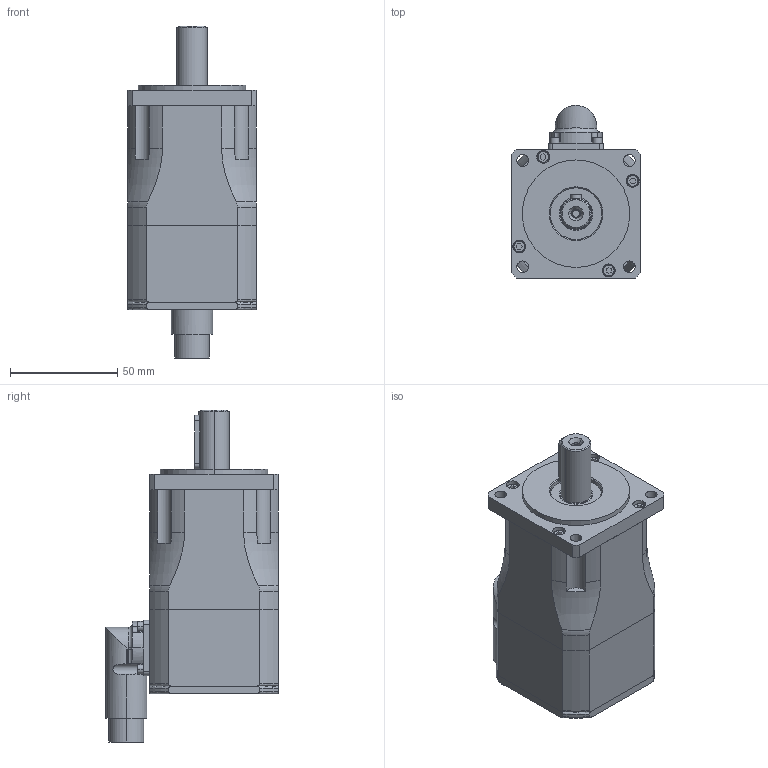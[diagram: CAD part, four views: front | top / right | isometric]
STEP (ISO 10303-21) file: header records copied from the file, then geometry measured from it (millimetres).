
FILE_DESCRIPTION (( 'STEP AP203' ), '1' );
FILE_NAME ('MKB60M30-060D_SF.STEP', '2015-09-03T13:26:11', ( 'Tecnico motori' ), ( '' ), 'SwSTEP 2.0', 'SolidWorks 2010', '' );
FILE_SCHEMA (( 'CONFIG_CONTROL_DESIGN' ));
Length unit declared in the file: millimetre
Products named in the file (1): MKB60M30-060D_SF
Bounding box: 60 x 80.5 x 154.5 mm (x, y, z)
Surface area: 39898.3 mm2 (no closed solid volume)
Topology: 0 solids, 20 shells, 314 faces, 895 edges, 604 vertices
Faces by surface type: plane 131, cylinder 130, torus 35, sphere 10, cone 8
Entity records: 10908 total; most frequent: CARTESIAN_POINT 2509, DIRECTION 1859, ORIENTED_EDGE 1549, EDGE_CURVE 893, AXIS2_PLACEMENT_3D 727, VERTEX_POINT 604, CIRCLE 412, VECTOR 405
